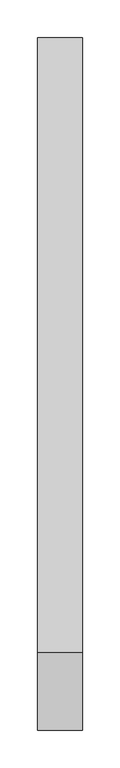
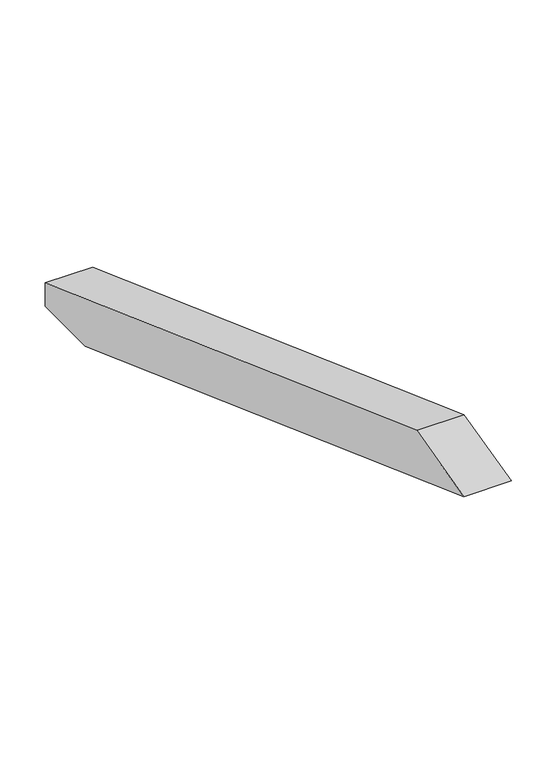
"""IFC4 building model written with IfcOpenShell, lengths in millimetres: proxy geometry, Modelos genéricos 56 : Modelos genéricos 14."""

from ifc_helpers import new_model, si_unit, frame, origin, place, context, project, spatial, polyline, outline, extrude, source, transform, mapped, element, save


def generic_models_351bb814(model_context):
    return source(origin(), model_context, "Body", "SweptSolid", [
        extrude(outline(polyline([(-422.9933771, 3463.5158927), (-318.8830723, 3489.473507), (498.6238165, 3191.9253332), (498.6238165, 3160.0), (410.9096845, 3160.0), (-422.9933771, 3463.5158927)])), frame((-5376.5527533, 0.0, 0.0), z_axis=(1.0, 0.0, 0.0), x_axis=(0.0, 1.0, 0.0)), (0.0, 0.0, 1.0), 60.0),
    ])


if __name__ == "__main__":
    model = new_model("IFC4")
    model_context = context("Model", 3, world=origin())
    ifc_project = project(units=[si_unit("LENGTHUNIT", "METRE", prefix="MILLI")], contexts=[model_context])
    site = spatial("IfcSite", under=ifc_project)
    building = spatial("IfcBuilding", under=site)
    placement = place(None, origin())
    generic_models_shape = generic_models_351bb814(model_context)
    element("IfcBuildingElementProxy", 1, Name="Modelos genéricos 56 : Modelos genéricos 14", ObjectType="Modelos genéricos 56 : Modelos genéricos 14", at=placement, inside=building, context=model_context, shape_type="MappedRepresentation", body=[
        mapped(generic_models_shape, transform((0.0, 0.0, 0.0), x_axis=(1.0, 0.0, 0.0), y_axis=(0.0, 1.0, 0.0), z_axis=(0.0, 0.0, 1.0))),
    ])
    save(model, "model.ifc")
